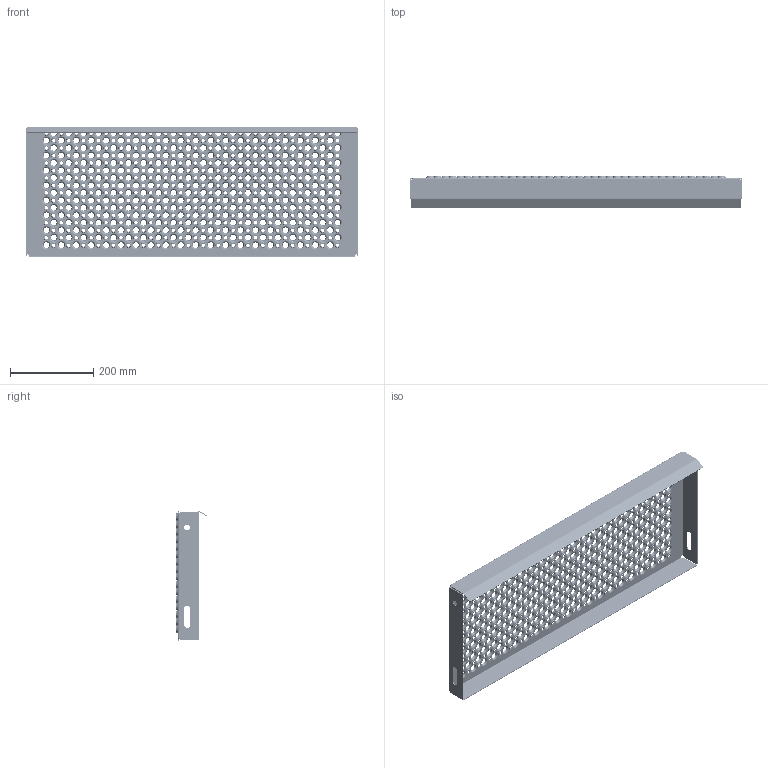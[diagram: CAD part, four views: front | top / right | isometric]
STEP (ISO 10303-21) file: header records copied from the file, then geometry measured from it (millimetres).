
FILE_DESCRIPTION (( 'STEP AP203' ), '1' );
FILE_NAME ('80243108G_Lejdertrin_315x800x45_mm_.STEP', '2015-06-09T06:03:26', ( '' ), ( '' ), 'SwSTEP 2.0', 'SolidWorks 2013', '' );
FILE_SCHEMA (( 'CONFIG_CONTROL_DESIGN' ));
Products named in the file (1): 80243108G_Lejdertrin_315x800x45_mm_
Bounding box: 800 x 75.67 x 315 mm (x, y, z)
Volume: 700756.6 mm3; surface area: 753198.6 mm2
Topology: 1 solids, 1 shells, 3276 faces, 9142 edges, 5868 vertices
Faces by surface type: cone 1920, torus 1280, cylinder 36, plane 32, bspline 8
Full cylindrical faces by diameter (mm): 14 x2
Entity records: 75617 total; most frequent: DIRECTION 14422, CARTESIAN_POINT 11745, ORIENTED_EDGE 8040, EDGE_LOOP 7766, AXIS2_PLACEMENT_3D 7165, FACE_OUTER_BOUND 4558, EDGE_CURVE 4020, VERTEX_POINT 3948
